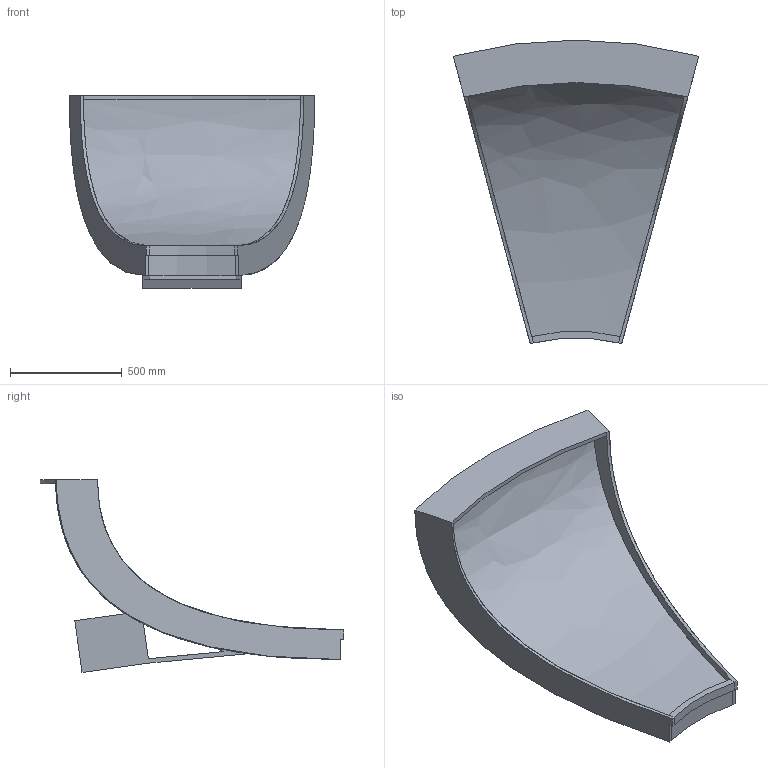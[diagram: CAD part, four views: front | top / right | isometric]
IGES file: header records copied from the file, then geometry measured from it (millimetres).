
Start section:  PTC IGES file: sob_sector.igs
Global section: file name: sob_sector.igs; native system: Pro/ENGINEER by Parametric Technology Corporation; preprocessor: 1999260; author: oshatz; organization: Unknown; date: 000922.101733; units: millimetre
Bounding box: 1099.95 x 1360.12 x 865.1 mm (x, y, z)
Surface area: 4917926.3 mm2 (no closed solid volume)
Topology: 0 solids, 0 shells, 52 faces, 304 edges, 304 vertices
Faces by surface type: bspline 38, extrusion 8, revolution 6
